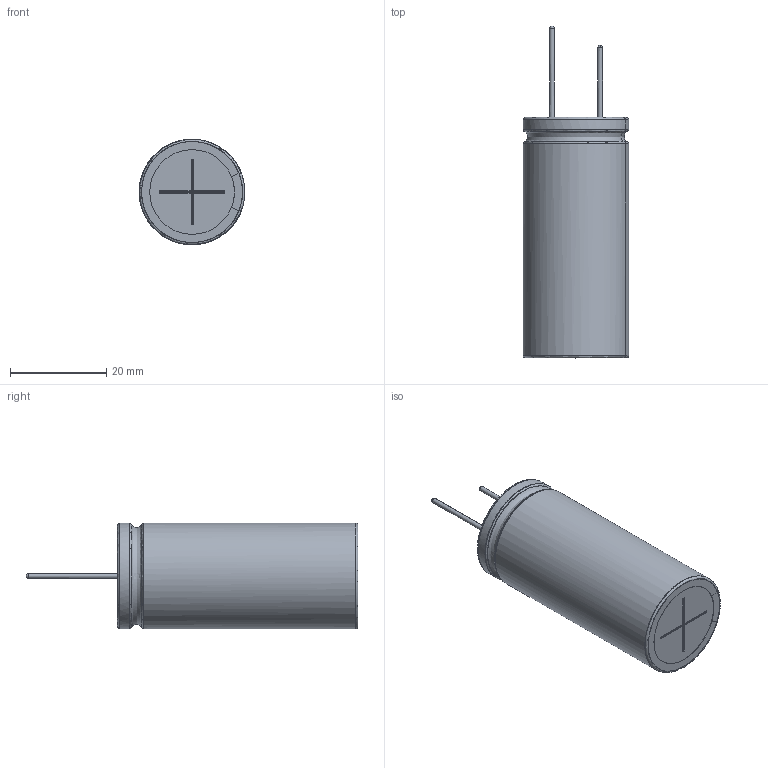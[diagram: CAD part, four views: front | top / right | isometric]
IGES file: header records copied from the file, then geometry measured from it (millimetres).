
Start section: JAMA-IS VERSION  1.0
Bounding box: 21.96 x 69 x 21.98 mm (x, y, z)
Surface area: 11771.1 mm2 (no closed solid volume)
Topology: 0 solids, 0 shells, 100 faces, 1352 edges, 1332 vertices
Faces by surface type: bspline 100
